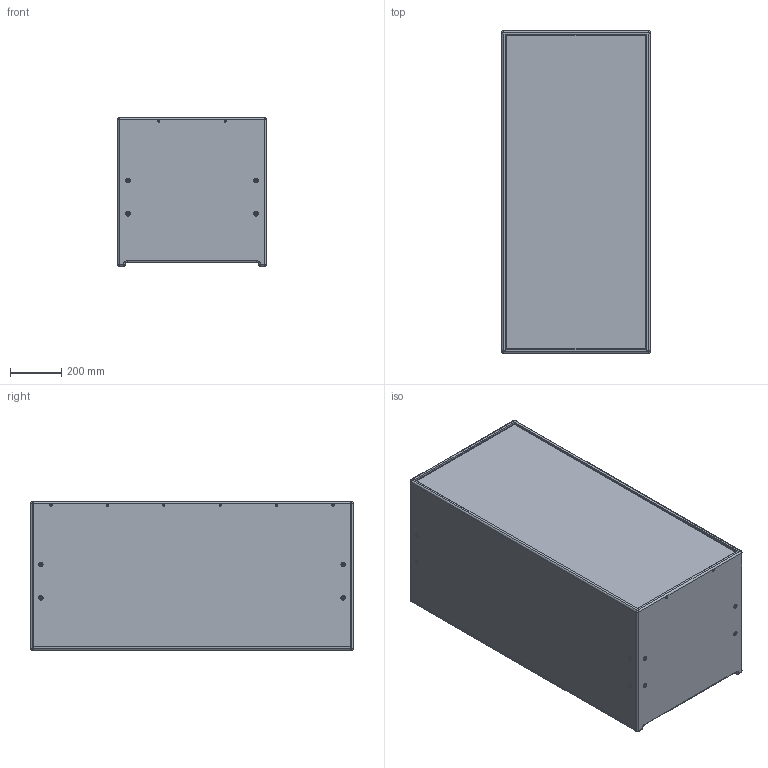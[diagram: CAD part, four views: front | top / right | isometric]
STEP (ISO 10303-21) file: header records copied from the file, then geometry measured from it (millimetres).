
FILE_DESCRIPTION (( 'STEP AP203' ), '1' );
FILE_NAME ('PS2.STEP', '2021-07-06T10:46:14', ( '' ), ( '' ), 'SwSTEP 2.0', 'SolidWorks 2009', '' );
FILE_SCHEMA (( 'CONFIG_CONTROL_DESIGN' ));
Products named in the file (17): m10_flansch_doppelt_multirigg; ASF PS-1xov komplett; ASF PS1xov; G1248 Frontgitter blank; G1248 Boden_Deckel; PS2; G1248 Seite; G1248 Rückwandleiste; G1248 Rückwand; G1248 Trennwand HOR; Baugruppe Platine 2x NL4MPXX; Socket Countersunk Head Screw_ISO_ISO 10642 - M3 x 8 --- 8N; Socket Countersunk Head Screw_ISO_ISO 10642 - M4 x 8 --- 8N; Faston PCB Tab 6.3x0.8; SpeakOn NL4MPXX; ASF Platine 2x NL4; Montageblech 2x NL4MP
Assembly tree (56 placements, depth 4):
  PS2
    G1248 Rückwand
    m10_flansch_doppelt_multirigg  x8
    G1248 Boden_Deckel  x2
    G1248 Rückwandleiste  x2
    G1248 Trennwand HOR  x2
    G1248 Seite  x2
    ASF PS-1xov komplett
      Socket Countersunk Head Screw_ISO_ISO 10642 - M4 x 8 --- 8N  x17
      Socket Countersunk Head Screw_ISO_ISO 10642 - M3 x 8 --- 8N  x10
      ASF PS1xov
      Baugruppe Platine 2x NL4MPXX
        ASF Platine 2x NL4
        Faston PCB Tab 6.3x0.8  x4
        Montageblech 2x NL4MP
        SpeakOn NL4MPXX  x2
    G1248 Frontgitter blank
Bounding box: 580 x 1260 x 580 mm (x, y, z)
Volume: 50592927.2 mm3; surface area: 8854694.2 mm2
Topology: 52 solids, 67 shells, 4802 faces, 12468 edges, 7693 vertices
Faces by surface type: plane 1744, cylinder 1258, bspline 996, cone 420, torus 222, sphere 162
Entity records: 92019 total; most frequent: CARTESIAN_POINT 34696, ORIENTED_EDGE 11830, DIRECTION 10559, EDGE_CURVE 5952, VERTEX_POINT 3757, AXIS2_PLACEMENT_3D 3730, VECTOR 3099, LINE 3099
